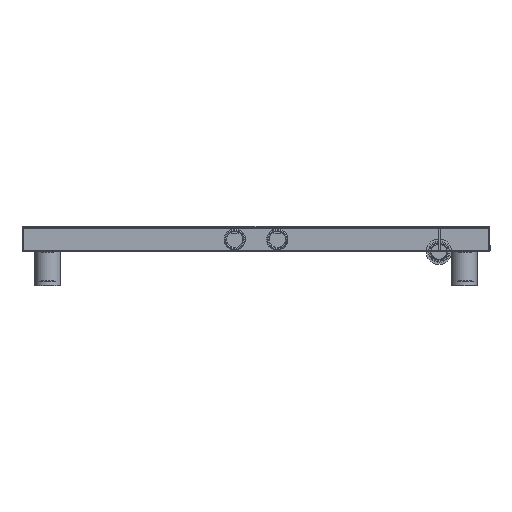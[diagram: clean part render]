
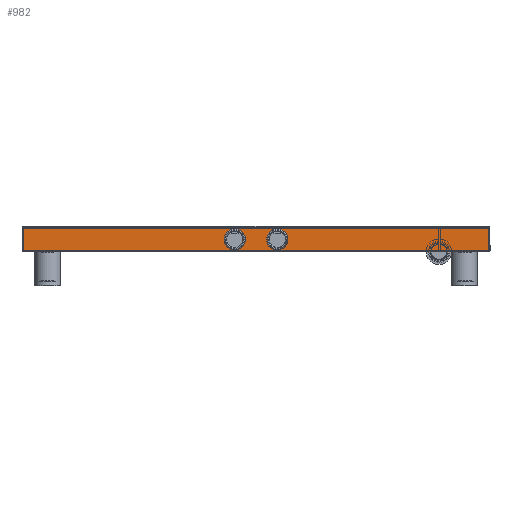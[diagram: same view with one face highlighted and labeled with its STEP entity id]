
A CAD part, front view. The second image highlights one B-rep face of the part: STEP entity #982.
In plain terms, the highlighted planar face has unit normal (0, -1, 0) as drawn and (1, 0, 0) by its records, which use the part's own axes.
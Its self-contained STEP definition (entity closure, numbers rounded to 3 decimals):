
#982 = ADVANCED_FACE( '', ( #2193, #2194, #2195 ), #2196, .T. );
#2193 = FACE_BOUND( '', #3843, .T. );
#2194 = FACE_OUTER_BOUND( '', #3844, .T. );
#2195 = FACE_BOUND( '', #3845, .T. );
#2196 = PLANE( '', #3846 );
#3843 = EDGE_LOOP( '', ( #6478 ) );
#3844 = EDGE_LOOP( '', ( #6479, #6480, #6481, #6482 ) );
#3845 = EDGE_LOOP( '', ( #6483 ) );
#3846 = AXIS2_PLACEMENT_3D( '', #6484, #6485, #6486 );
#6478 = ORIENTED_EDGE( '', *, *, #10287, .T. );
#6479 = ORIENTED_EDGE( '', *, *, #10288, .F. );
#6480 = ORIENTED_EDGE( '', *, *, #9862, .F. );
#6481 = ORIENTED_EDGE( '', *, *, #10289, .T. );
#6482 = ORIENTED_EDGE( '', *, *, #10290, .T. );
#6483 = ORIENTED_EDGE( '', *, *, #10291, .T. );
#6484 = CARTESIAN_POINT( '', ( 60., 550., 1. ) );
#6485 = DIRECTION( '', ( 1., 0., 0. ) );
#6486 = DIRECTION( '', ( 0., 0., -1. ) );
#9862 = EDGE_CURVE( '', #11850, #11852, #11853, .T. );
#10287 = EDGE_CURVE( '', #12537, #12537, #12538, .T. );
#10288 = EDGE_CURVE( '', #11852, #12539, #12540, .T. );
#10289 = EDGE_CURVE( '', #11850, #12541, #12542, .T. );
#10290 = EDGE_CURVE( '', #12541, #12539, #12543, .T. );
#10291 = EDGE_CURVE( '', #12544, #12544, #12545, .T. );
#11850 = VERTEX_POINT( '', #14681 );
#11852 = VERTEX_POINT( '', #14683 );
#11853 = LINE( '', #14684, #14685 );
#12537 = VERTEX_POINT( '', #15809 );
#12538 = CIRCLE( '', #15810, 12.5 );
#12539 = VERTEX_POINT( '', #15811 );
#12540 = LINE( '', #15812, #15813 );
#12541 = VERTEX_POINT( '', #15814 );
#12542 = LINE( '', #15815, #15816 );
#12543 = LINE( '', #15817, #15818 );
#12544 = VERTEX_POINT( '', #15819 );
#12545 = CIRCLE( '', #15820, 12.5 );
#14681 = CARTESIAN_POINT( '', ( 60., 550., 1. ) );
#14683 = CARTESIAN_POINT( '', ( 60., 0., 1. ) );
#14684 = CARTESIAN_POINT( '', ( 60., 550., 1. ) );
#14685 = VECTOR( '', #18330, 1000. );
#15809 = CARTESIAN_POINT( '', ( 60., 312.5, 15.5 ) );
#15810 = AXIS2_PLACEMENT_3D( '', #18756, #18757, #18758 );
#15811 = CARTESIAN_POINT( '', ( 60., 0., 29. ) );
#15812 = CARTESIAN_POINT( '', ( 60., 0., 1. ) );
#15813 = VECTOR( '', #18759, 1000. );
#15814 = CARTESIAN_POINT( '', ( 60., 550., 29. ) );
#15815 = CARTESIAN_POINT( '', ( 60., 550., 1. ) );
#15816 = VECTOR( '', #18760, 1000. );
#15817 = CARTESIAN_POINT( '', ( 60., 550., 29. ) );
#15818 = VECTOR( '', #18761, 1000. );
#15819 = CARTESIAN_POINT( '', ( 60., 262.5, 15.5 ) );
#15820 = AXIS2_PLACEMENT_3D( '', #18762, #18763, #18764 );
#18330 = DIRECTION( '', ( 0., -1., 0. ) );
#18756 = CARTESIAN_POINT( '', ( 60., 300., 15.5 ) );
#18757 = DIRECTION( '', ( -1., 0., 0. ) );
#18758 = DIRECTION( '', ( 0., 1., 0. ) );
#18759 = DIRECTION( '', ( 0., 0., 1. ) );
#18760 = DIRECTION( '', ( 0., 0., 1. ) );
#18761 = DIRECTION( '', ( 0., -1., 0. ) );
#18762 = CARTESIAN_POINT( '', ( 60., 250., 15.5 ) );
#18763 = DIRECTION( '', ( -1., 0., 0. ) );
#18764 = DIRECTION( '', ( 0., 1., 0. ) );
